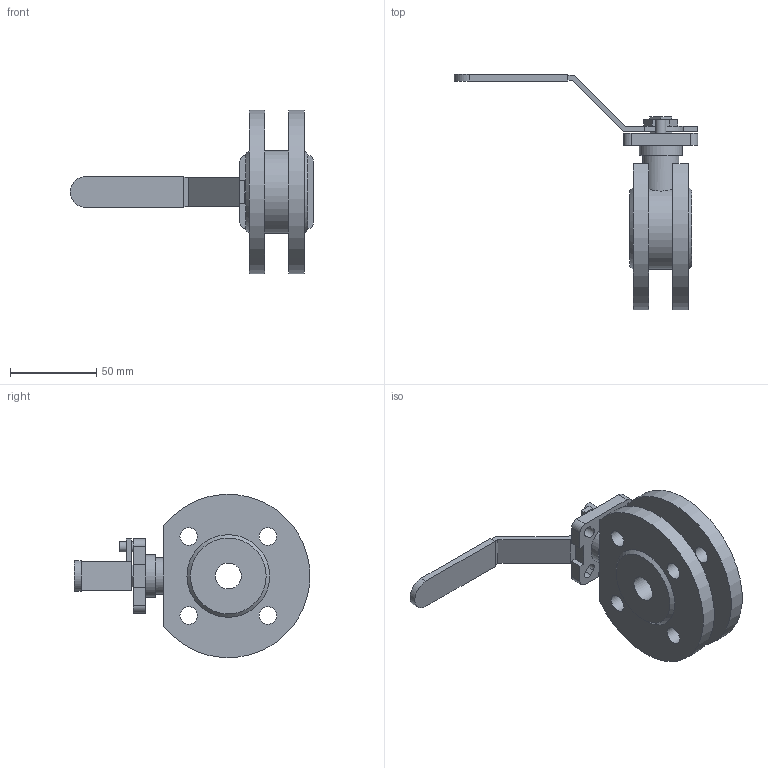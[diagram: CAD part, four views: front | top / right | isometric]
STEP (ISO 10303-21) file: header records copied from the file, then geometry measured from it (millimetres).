
FILE_DESCRIPTION (( 'STEP AP203' ), '1' );
FILE_NAME ('01.622I015X16CP.STEP', '2018-10-23T08:47:59', ( 'dell2' ), ( 'Microsoft' ), 'SwSTEP 2.0', 'SolidWorks 2014', '' );
FILE_SCHEMA (( 'CONFIG_CONTROL_DESIGN' ));
Length unit declared in the file: millimetre
Products named in the file (1): 01.622I015X16CP
Bounding box: 141.5 x 136.83 x 94.86 mm (x, y, z)
Volume: 170186.3 mm3; surface area: 45204.2 mm2
Topology: 1 solids, 1 shells, 98 faces, 268 edges, 181 vertices
Faces by surface type: plane 67, cylinder 29, cone 2
Full cylindrical faces by diameter (mm): 6 x1, 10.2 x8, 15 x1, 21 x1, 25 x1
Entity records: 3140 total; most frequent: CARTESIAN_POINT 564, DIRECTION 505, ORIENTED_EDGE 492, EDGE_CURVE 246, LINE 181, VECTOR 181, VERTEX_POINT 173, AXIS2_PLACEMENT_3D 162
